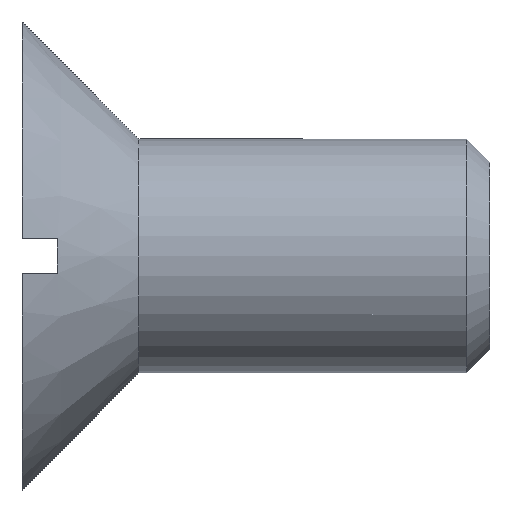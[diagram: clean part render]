
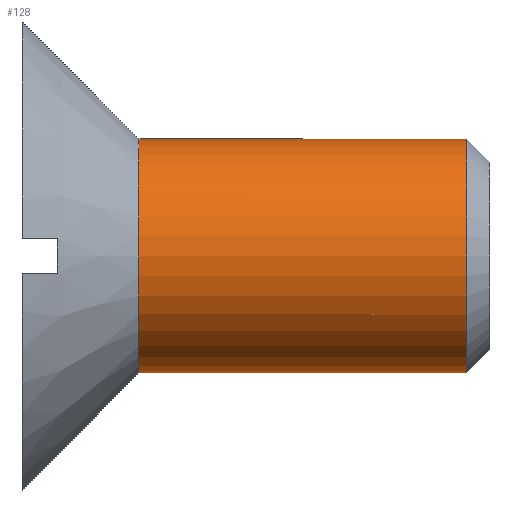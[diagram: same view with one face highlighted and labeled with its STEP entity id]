
A CAD part, left-side view. The second image highlights one B-rep face of the part: STEP entity #128.
In plain terms, the highlighted cylindrical face has radius 1 mm (diameter 2 mm), a partial arc.
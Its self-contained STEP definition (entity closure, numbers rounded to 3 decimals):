
#4 = CYLINDRICAL_SURFACE ( 'NONE', #67, 1. ) ;
#26 = LINE ( 'NONE', #139, #27 ) ;
#27 = VECTOR ( 'NONE', #167, 1000. ) ;
#33 = LINE ( 'NONE', #171, #34 ) ;
#34 = VECTOR ( 'NONE', #159, 1000. ) ;
#36 = CIRCLE ( 'NONE', #83, 1. ) ;
#38 = CIRCLE ( 'NONE', #111, 1. ) ;
#49 = FACE_OUTER_BOUND ( 'NONE', #316, .T. ) ;
#62 = EDGE_CURVE ( 'NONE', #355, #338, #26, .T. ) ;
#67 = AXIS2_PLACEMENT_3D ( 'NONE', #238, #242, #231 ) ;
#77 = EDGE_CURVE ( 'NONE', #359, #337, #33, .T. ) ;
#83 = AXIS2_PLACEMENT_3D ( 'NONE', #192, #181, #187 ) ;
#86 = EDGE_CURVE ( 'NONE', #355, #359, #36, .T. ) ;
#90 = EDGE_CURVE ( 'NONE', #337, #338, #38, .T. ) ;
#111 = AXIS2_PLACEMENT_3D ( 'NONE', #212, #200, #208 ) ;
#128 = ADVANCED_FACE ( 'NONE', ( #49 ), #4, .T. ) ;
#139 = CARTESIAN_POINT ( 'NONE',  ( 0., 0., 1. ) ) ;
#159 = DIRECTION ( 'NONE',  ( 0., -1., 0. ) ) ;
#167 = DIRECTION ( 'NONE',  ( 0., -1., 0. ) ) ;
#171 = CARTESIAN_POINT ( 'NONE',  ( 0., 0., -1. ) ) ;
#181 = DIRECTION ( 'NONE',  ( 0., -1., 0. ) ) ;
#187 = DIRECTION ( 'NONE',  ( 0., 0., -1. ) ) ;
#192 = CARTESIAN_POINT ( 'NONE',  ( 0., 3., 0. ) ) ;
#200 = DIRECTION ( 'NONE',  ( 0., 1., 0. ) ) ;
#208 = DIRECTION ( 'NONE',  ( 0., 0., 1. ) ) ;
#212 = CARTESIAN_POINT ( 'NONE',  ( 0., 0.2, 0. ) ) ;
#220 = CARTESIAN_POINT ( 'NONE',  ( 0., 0.2, -1. ) ) ;
#231 = DIRECTION ( 'NONE',  ( 0., 0., -1. ) ) ;
#238 = CARTESIAN_POINT ( 'NONE',  ( 0., 0., 0. ) ) ;
#242 = DIRECTION ( 'NONE',  ( 0., -1., 0. ) ) ;
#257 = CARTESIAN_POINT ( 'NONE',  ( 0., 0.2, 1. ) ) ;
#280 = CARTESIAN_POINT ( 'NONE',  ( 0., 3., 1. ) ) ;
#286 = CARTESIAN_POINT ( 'NONE',  ( 0., 3., -1. ) ) ;
#295 = ORIENTED_EDGE ( 'NONE', *, *, #90, .T. ) ;
#316 = EDGE_LOOP ( 'NONE', ( #371, #353, #354, #295 ) ) ;
#337 = VERTEX_POINT ( 'NONE', #220 ) ;
#338 = VERTEX_POINT ( 'NONE', #257 ) ;
#353 = ORIENTED_EDGE ( 'NONE', *, *, #86, .T. ) ;
#354 = ORIENTED_EDGE ( 'NONE', *, *, #77, .T. ) ;
#355 = VERTEX_POINT ( 'NONE', #280 ) ;
#359 = VERTEX_POINT ( 'NONE', #286 ) ;
#371 = ORIENTED_EDGE ( 'NONE', *, *, #62, .F. ) ;
